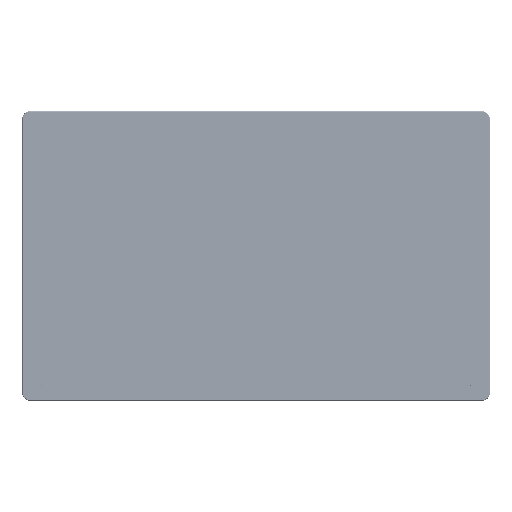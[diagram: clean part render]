
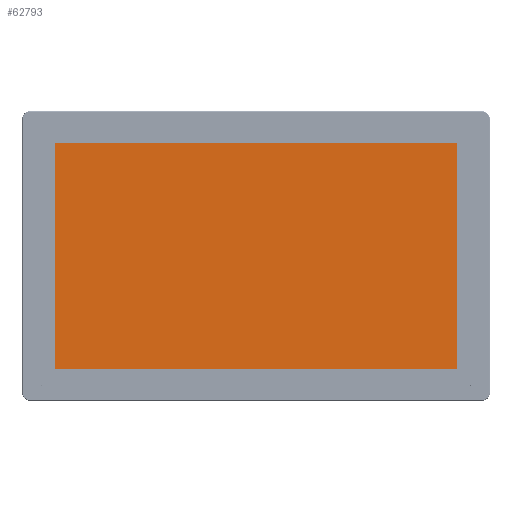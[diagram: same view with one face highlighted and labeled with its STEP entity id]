
A CAD part, top view. The second image highlights one B-rep face of the part: STEP entity #62793.
In plain terms, the highlighted planar face has unit normal (0, 0, 1).
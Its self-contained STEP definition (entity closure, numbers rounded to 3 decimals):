
#41042=PLANE('',#284122);
#62793=ADVANCED_FACE('',(#79748),#41042,.T.);
#79748=FACE_OUTER_BOUND('',#96802,.T.);
#96802=EDGE_LOOP('',(#148120,#148121,#148122,#148123));
#148120=ORIENTED_EDGE('',*,*,#240734,.T.);
#148121=ORIENTED_EDGE('',*,*,#240744,.T.);
#148122=ORIENTED_EDGE('',*,*,#240741,.T.);
#148123=ORIENTED_EDGE('',*,*,#240738,.T.);
#205790=VERTEX_POINT('',#535840);
#205791=VERTEX_POINT('',#535841);
#205794=VERTEX_POINT('',#535849);
#205796=VERTEX_POINT('',#535855);
#240734=EDGE_CURVE('',#205790,#205791,#268286,.T.);
#240738=EDGE_CURVE('',#205794,#205790,#268290,.T.);
#240741=EDGE_CURVE('',#205796,#205794,#268293,.T.);
#240744=EDGE_CURVE('',#205791,#205796,#268296,.T.);
#268286=LINE('',#535839,#273073);
#268290=LINE('',#535848,#273077);
#268293=LINE('',#535854,#273080);
#268296=LINE('',#535860,#273083);
#273073=VECTOR('',#318410,1.);
#273077=VECTOR('',#318416,1.);
#273080=VECTOR('',#318421,1.);
#273083=VECTOR('',#318426,1.);
#284122=AXIS2_PLACEMENT_3D('',#535864,#318432,#318433);
#318410=DIRECTION('',(0.,-1.,0.));
#318416=DIRECTION('',(-1.,0.,0.));
#318421=DIRECTION('',(0.,1.,0.));
#318426=DIRECTION('',(1.,0.,0.));
#318432=DIRECTION('',(0.,0.,1.));
#318433=DIRECTION('',(1.,0.,0.));
#535839=CARTESIAN_POINT('',(-297.546,125.49,11.5));
#535840=CARTESIAN_POINT('',(-297.546,125.49,11.5));
#535841=CARTESIAN_POINT('',(-297.546,-143.51,11.5));
#535848=CARTESIAN_POINT('',(-297.546,125.49,11.5));
#535849=CARTESIAN_POINT('',(179.954,125.49,11.5));
#535854=CARTESIAN_POINT('',(179.954,125.49,11.5));
#535855=CARTESIAN_POINT('',(179.954,-143.51,11.5));
#535860=CARTESIAN_POINT('',(-297.546,-143.51,11.5));
#535864=CARTESIAN_POINT('',(-52.517,2.567,11.5));
